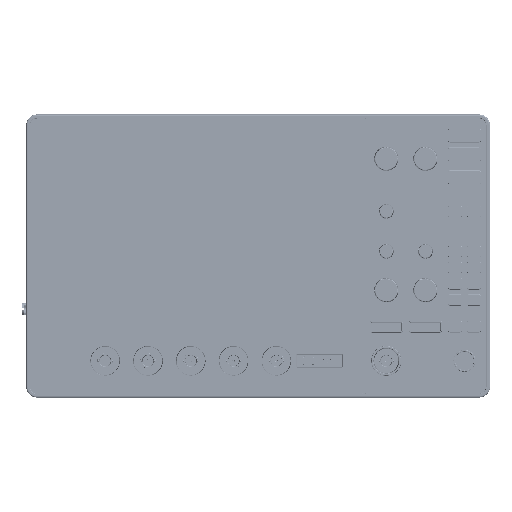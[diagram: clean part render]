
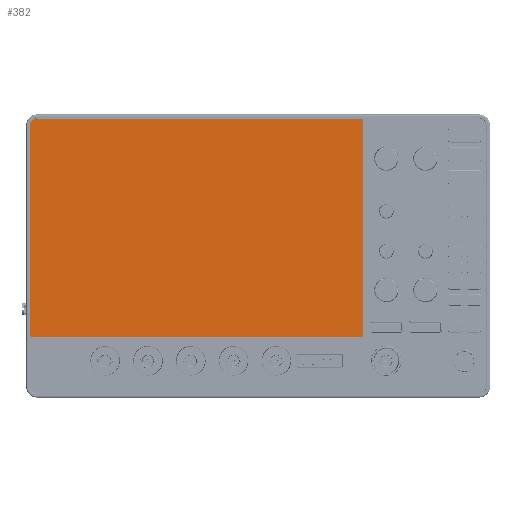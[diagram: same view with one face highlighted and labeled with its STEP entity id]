
A CAD part, front view. The second image highlights one B-rep face of the part: STEP entity #382.
In plain terms, the highlighted planar face has unit normal (0, -1, 0) as drawn and (0, 0, 1) by its records, which use the part's own axes.
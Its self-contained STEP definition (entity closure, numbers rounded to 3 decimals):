
#223=CARTESIAN_POINT('',(-118.86,75.98,0.));
#224=DIRECTION('',(0.,0.,1.));
#225=DIRECTION('',(0.,1.,0.));
#226=AXIS2_PLACEMENT_3D('',#223,#224,#225);
#228=DIRECTION('',(-1.,0.,0.));
#229=VECTOR('',#228,241.65);
#230=CARTESIAN_POINT('',(122.79,80.98,0.));
#231=LINE('',#230,#229);
#232=CARTESIAN_POINT('',(122.79,80.48,0.));
#233=DIRECTION('',(0.,0.,1.));
#234=DIRECTION('',(1.,0.,0.));
#235=AXIS2_PLACEMENT_3D('',#232,#233,#234);
#237=DIRECTION('',(0.,1.,0.));
#238=VECTOR('',#237,160.56);
#239=CARTESIAN_POINT('',(123.29,-80.08,0.));
#240=LINE('',#239,#238);
#241=CARTESIAN_POINT('',(122.79,-80.08,0.));
#242=DIRECTION('',(0.,0.,1.));
#243=DIRECTION('',(0.,-1.,0.));
#244=AXIS2_PLACEMENT_3D('',#241,#242,#243);
#246=DIRECTION('',(1.,0.,0.));
#247=VECTOR('',#246,246.15);
#248=CARTESIAN_POINT('',(-123.36,-80.58,0.));
#249=LINE('',#248,#247);
#250=CARTESIAN_POINT('',(-123.36,-80.08,0.));
#251=DIRECTION('',(0.,0.,1.));
#252=DIRECTION('',(-1.,0.,0.));
#253=AXIS2_PLACEMENT_3D('',#250,#251,#252);
#255=DIRECTION('',(0.,-1.,0.));
#256=VECTOR('',#255,156.06);
#257=CARTESIAN_POINT('',(-123.86,75.98,0.));
#258=LINE('',#257,#256);
#331=CARTESIAN_POINT('',(-118.86,80.98,0.));
#332=VERTEX_POINT('',#331);
#333=CARTESIAN_POINT('',(-123.86,75.98,0.));
#334=VERTEX_POINT('',#333);
#339=CARTESIAN_POINT('',(123.29,80.48,0.));
#340=VERTEX_POINT('',#339);
#341=CARTESIAN_POINT('',(122.79,80.98,0.));
#342=VERTEX_POINT('',#341);
#347=CARTESIAN_POINT('',(-123.86,-80.08,0.));
#348=VERTEX_POINT('',#347);
#349=CARTESIAN_POINT('',(-123.36,-80.58,0.));
#350=VERTEX_POINT('',#349);
#355=CARTESIAN_POINT('',(122.79,-80.58,0.));
#356=VERTEX_POINT('',#355);
#357=CARTESIAN_POINT('',(123.29,-80.08,0.));
#358=VERTEX_POINT('',#357);
#359=CARTESIAN_POINT('',(0.,0.,0.));
#360=DIRECTION('',(0.,0.,1.));
#361=DIRECTION('',(1.,0.,0.));
#362=AXIS2_PLACEMENT_3D('',#359,#360,#361);
#363=PLANE('',#362);
#365=ORIENTED_EDGE('',*,*,#364,.F.);
#367=ORIENTED_EDGE('',*,*,#366,.F.);
#369=ORIENTED_EDGE('',*,*,#368,.F.);
#371=ORIENTED_EDGE('',*,*,#370,.F.);
#373=ORIENTED_EDGE('',*,*,#372,.F.);
#375=ORIENTED_EDGE('',*,*,#374,.F.);
#377=ORIENTED_EDGE('',*,*,#376,.F.);
#379=ORIENTED_EDGE('',*,*,#378,.F.);
#380=EDGE_LOOP('',(#365,#367,#369,#371,#373,#375,#377,#379));
#381=FACE_OUTER_BOUND('',#380,.F.);
#382=ADVANCED_FACE('',(#381),#363,.T.);
#227=CIRCLE('',#226,5.);
#236=CIRCLE('',#235,0.5);
#245=CIRCLE('',#244,0.5);
#254=CIRCLE('',#253,0.5);
#364=EDGE_CURVE('',#332,#334,#227,.T.);
#366=EDGE_CURVE('',#342,#332,#231,.T.);
#368=EDGE_CURVE('',#340,#342,#236,.T.);
#370=EDGE_CURVE('',#358,#340,#240,.T.);
#372=EDGE_CURVE('',#356,#358,#245,.T.);
#374=EDGE_CURVE('',#350,#356,#249,.T.);
#376=EDGE_CURVE('',#348,#350,#254,.T.);
#378=EDGE_CURVE('',#334,#348,#258,.T.);
